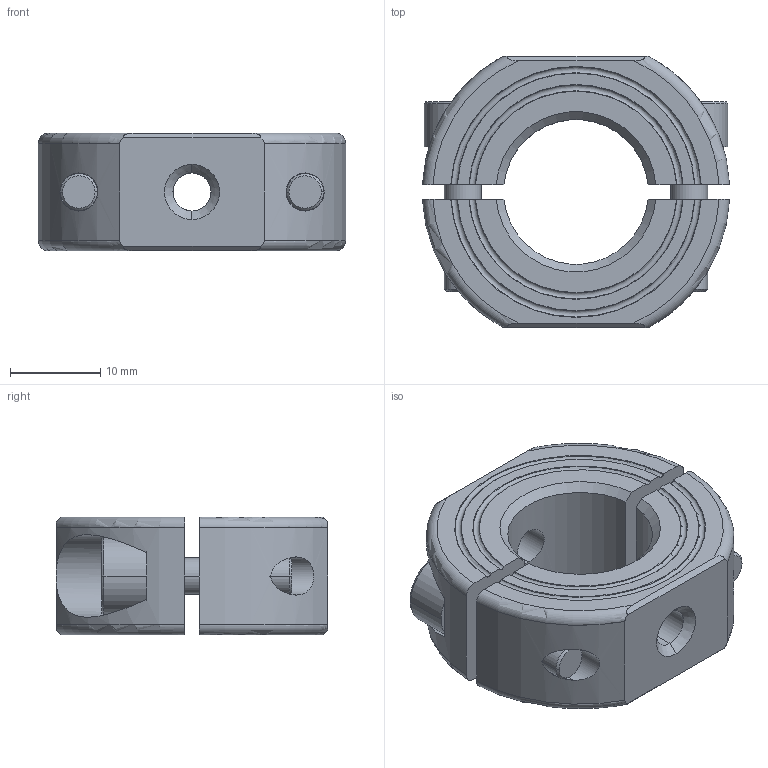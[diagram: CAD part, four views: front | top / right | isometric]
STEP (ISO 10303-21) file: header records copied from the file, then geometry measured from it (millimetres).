
FILE_DESCRIPTION (( 'STEP AP214' ), '1' );
FILE_NAME ('Ruland_OF-MSP-16-F.step', '2018-02-08T04:21:21', ( '' ), ( '' ), 'SwSTEP 2.0', 'SolidWorks 2018', '' );
FILE_SCHEMA (( 'AUTOMOTIVE_DESIGN' ));
Length unit declared in the file: millimetre
Products named in the file (3): Ruland_OF-MSP-16-F; Metric Socket Head Cap Screws 1_CFM5_16.step; OX-MSP-XX-XX-D_OF-MSP-16-F-D.step
Assembly tree (3 placements, depth 2):
  Ruland_OF-MSP-16-F
    OX-MSP-XX-XX-D_OF-MSP-16-F-D.step
    Metric Socket Head Cap Screws 1_CFM5_16.step  x2
Bounding box: 33.96 x 30 x 13 mm (x, y, z)
Volume: 7592.1 mm3; surface area: 5156.4 mm2
Topology: 4 solids, 4 shells, 108 faces, 276 edges, 180 vertices
Faces by surface type: plane 40, cylinder 32, cone 24, torus 12
Entity records: 4006 total; most frequent: CARTESIAN_POINT 1603, ORIENTED_EDGE 476, DIRECTION 438, EDGE_CURVE 238, AXIS2_PLACEMENT_3D 176, VERTEX_POINT 156, EDGE_LOOP 104, ADVANCED_FACE 90
